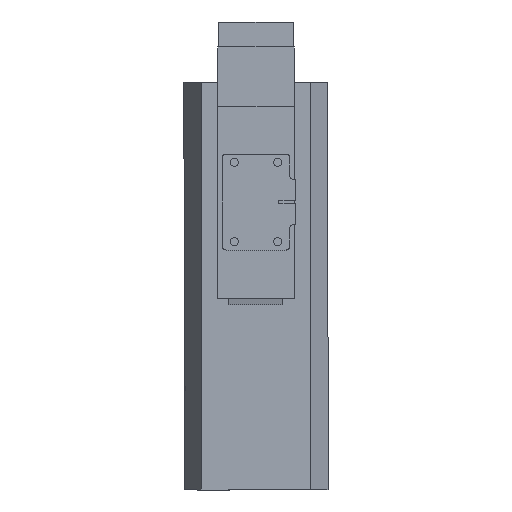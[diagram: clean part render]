
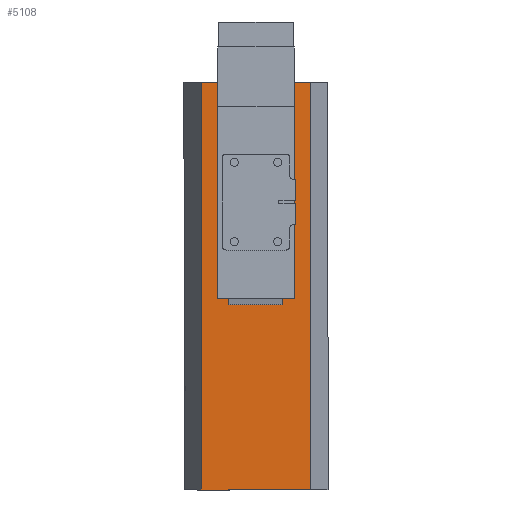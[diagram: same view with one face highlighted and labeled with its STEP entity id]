
A CAD part, front view. The second image highlights one B-rep face of the part: STEP entity #5108.
In plain terms, the highlighted planar face has unit normal (0, -1, 0).
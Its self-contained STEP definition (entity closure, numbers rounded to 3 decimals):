
#621=FACE_OUTER_BOUND('',#932,.T.);
#932=EDGE_LOOP('',(#4599,#4600,#4601,#4602));
#1459=LINE('',#8932,#2009);
#1469=LINE('',#8951,#2019);
#1472=LINE('',#8957,#2022);
#1473=LINE('',#8959,#2023);
#2009=VECTOR('',#6934,10.);
#2019=VECTOR('',#6950,10.);
#2022=VECTOR('',#6957,10.);
#2023=VECTOR('',#6960,10.);
#2483=VERTEX_POINT('',#8929);
#2484=VERTEX_POINT('',#8931);
#2490=VERTEX_POINT('',#8949);
#2491=VERTEX_POINT('',#8955);
#3184=EDGE_CURVE('',#2484,#2483,#1459,.T.);
#3194=EDGE_CURVE('',#2490,#2483,#1469,.T.);
#3197=EDGE_CURVE('',#2484,#2491,#1472,.T.);
#3198=EDGE_CURVE('',#2491,#2490,#1473,.T.);
#4599=ORIENTED_EDGE('',*,*,#3194,.F.);
#4600=ORIENTED_EDGE('',*,*,#3198,.F.);
#4601=ORIENTED_EDGE('',*,*,#3197,.F.);
#4602=ORIENTED_EDGE('',*,*,#3184,.T.);
#4834=PLANE('',#5621);
#5108=ADVANCED_FACE('',(#621),#4834,.T.);
#5621=AXIS2_PLACEMENT_3D('',#8958,#6958,#6959);
#6934=DIRECTION('',(1.,0.,0.));
#6950=DIRECTION('',(0.,0.,-1.));
#6957=DIRECTION('',(0.,0.,1.));
#6958=DIRECTION('center_axis',(0.,-1.,0.));
#6959=DIRECTION('ref_axis',(0.,0.,-1.));
#6960=DIRECTION('',(1.,0.,0.));
#8929=CARTESIAN_POINT('',(45.5,-25.,-170.));
#8931=CARTESIAN_POINT('',(-45.5,-25.,-170.));
#8932=CARTESIAN_POINT('',(0.,-25.,-170.));
#8949=CARTESIAN_POINT('',(45.5,-25.,170.));
#8951=CARTESIAN_POINT('',(45.5,-25.,85.));
#8955=CARTESIAN_POINT('',(-45.5,-25.,170.));
#8957=CARTESIAN_POINT('',(-45.5,-25.,85.));
#8958=CARTESIAN_POINT('Origin',(0.,-25.,170.));
#8959=CARTESIAN_POINT('',(0.,-25.,170.));
